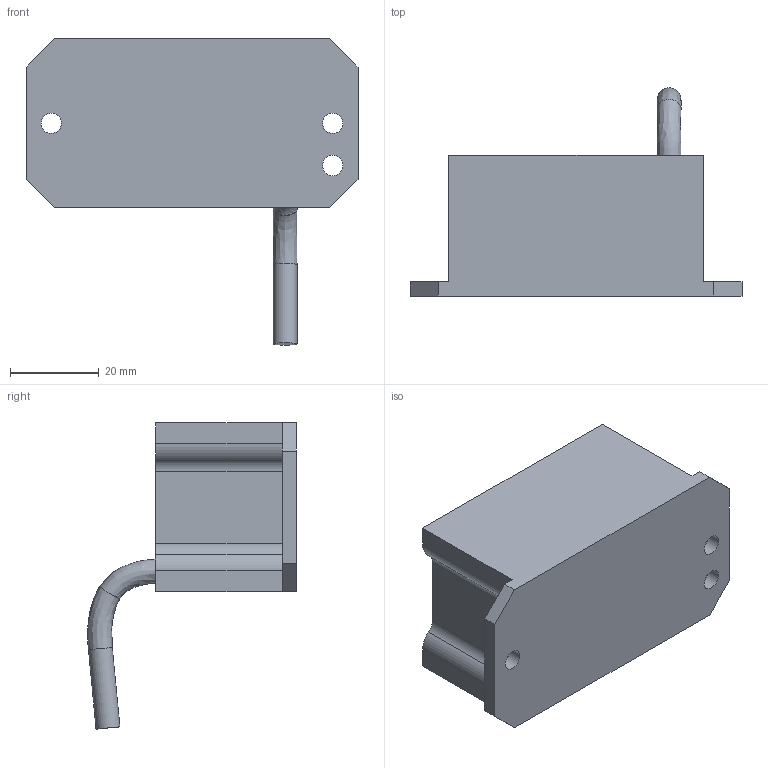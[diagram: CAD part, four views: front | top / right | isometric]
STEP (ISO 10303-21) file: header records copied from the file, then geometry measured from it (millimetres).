
FILE_DESCRIPTION(/* description */ (''),/* implementation_level */ '2;1');
FILE_NAME(/* name */ 'SINC-AL-CUST-ASSY.step',/* time_stamp */ '2025-06-03T13:27:04-05:00',/* author */ (''),/* organization */ (''),/* preprocessor_version */ 'ST-DEVELOPER v20.1',/* originating_system */ 'Autodesk Translation Framework v14.10.0.0',/* authorisation */ '');
FILE_SCHEMA (('AUTOMOTIVE_DESIGN { 1 0 10303 214 3 1 1 }'));
Length unit declared in the file: millimetre
Products named in the file (1): SINC-AL-CUST-ASSY
Bounding box: 74.93 x 47.09 x 69.12 mm (x, y, z)
Volume: 64793.6 mm3; surface area: 12951.2 mm2
Topology: 1 solids, 1 shells, 44 faces, 118 edges, 78 vertices
Faces by surface type: plane 24, cylinder 18, bspline 2
Full cylindrical faces by diameter (mm): 4.572 x3, 5.4 x1
Entity records: 1665 total; most frequent: CARTESIAN_POINT 488, DIRECTION 240, ORIENTED_EDGE 236, EDGE_CURVE 118, AXIS2_PLACEMENT_3D 82, VERTEX_POINT 78, LINE 76, VECTOR 76
